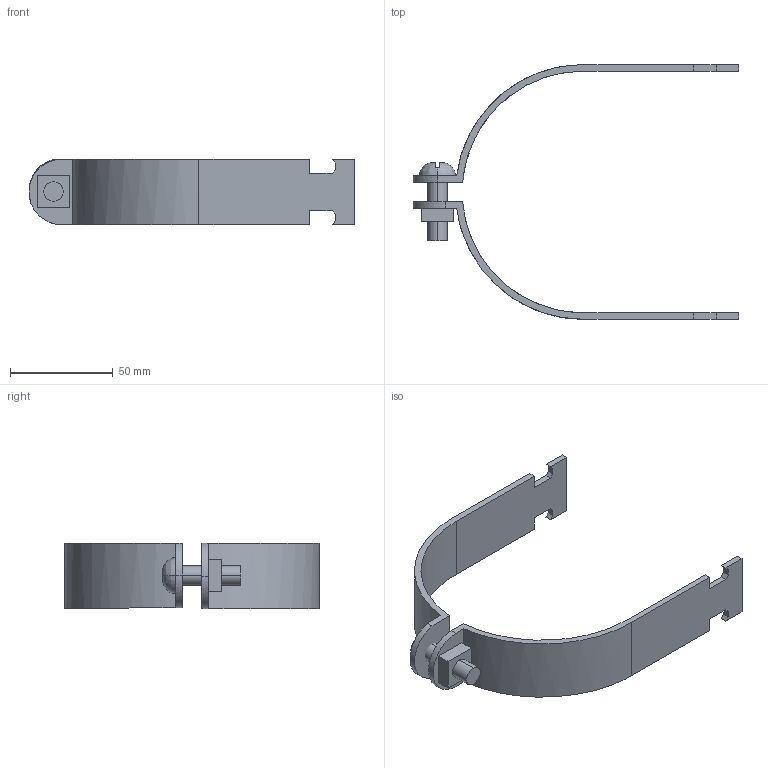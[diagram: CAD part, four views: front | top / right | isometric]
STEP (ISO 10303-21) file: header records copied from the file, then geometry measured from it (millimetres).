
FILE_DESCRIPTION(('TurboCAD Mac Pro'),'Build 980');
FILE_NAME('P2059.stp',' ',(''),(''),'ACIS Interop','IMSI','TurboCAD Mac Pro BY IMSI, INCORPORATED');
FILE_SCHEMA(('automotive_design'));
Length unit declared in the file: inch
Products named in the file (5): 1; 2; 3; 4; 5
Bounding box: 158.75 x 123.93 x 31.75 mm (x, y, z)
Volume: 40397.5 mm3; surface area: 28122 mm2
Topology: 4 solids, 4 shells, 71 faces, 186 edges, 124 vertices
Faces by surface type: plane 51, bspline 20
Entity records: 3398 total; most frequent: CARTESIAN_POINT 1035, ORIENTED_EDGE 372, DIRECTION 257, EDGE_CURVE 186, LINE 137, VECTOR 137, VERTEX_POINT 124, STYLED_ITEM 83
